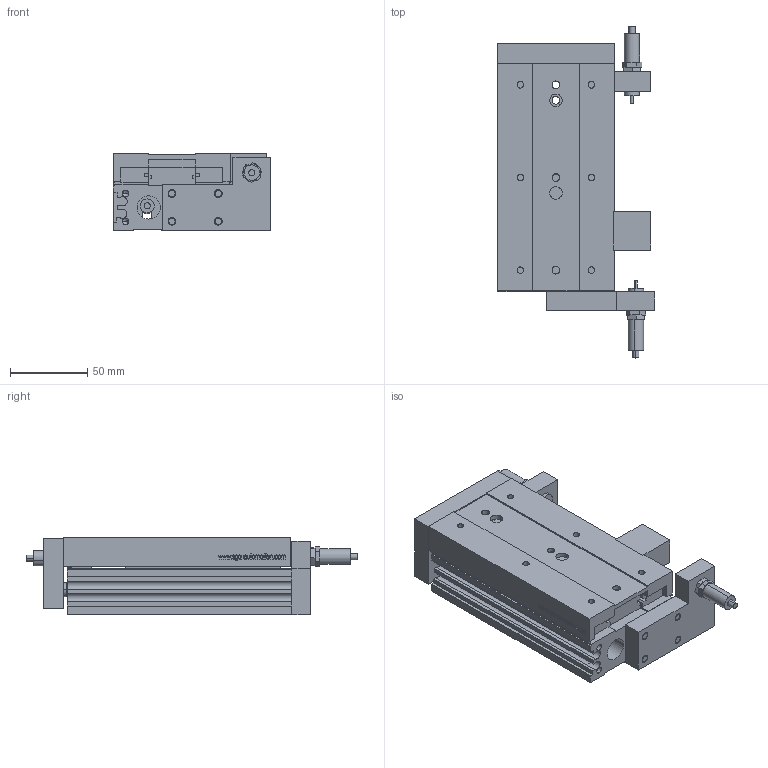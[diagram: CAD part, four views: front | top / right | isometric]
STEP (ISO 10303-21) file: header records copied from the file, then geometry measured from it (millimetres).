
FILE_DESCRIPTION (( 'STEP AP203' ), '1' );
FILE_NAME ('GDX 20-75.STEP', '2013-02-27T13:20:57', ( 'Conseil Régional Haute-Normandie' ), ( 'Conseil Régional Haute-Normandie' ), 'SwSTEP 2.0', 'SolidWorks 2010', '' );
FILE_SCHEMA (( 'CONFIG_CONTROL_DESIGN' ));
Length unit declared in the file: millimetre
Products named in the file (14): Pièce 12 GDX 20-75_Default; Pièce7 GDX 20-10_Default; Pièce4 GDX 20-10_Default; Pièce9 GDX 20-10_Default; GDX 20-75; Pièce11 GDX 20-75_Default; Pièce13 GDX 20-75_Default; Pièce 10 GDX 20-75_Default; Pièce1 GDX 20-10_Default; Pièce2 GDX 20-10_Default; Pièce3 GDX 20-10_Default; Pièce14 GDX 20-10_Default; Pièce15 GDX 20-10_Default; Pièce16 GDX 20-10_Default
Assembly tree (29 placements, depth 2):
  GDX 20-75
    Pièce15 GDX 20-10_Default  x8
    Pièce16 GDX 20-10_Default  x4
    Pièce13 GDX 20-75_Default  x2
    Pièce14 GDX 20-10_Default  x4
    Pièce 10 GDX 20-75_Default
    Pièce1 GDX 20-10_Default
    Pièce 12 GDX 20-75_Default
    Pièce11 GDX 20-75_Default
    Pièce4 GDX 20-10_Default  x2
    Pièce2 GDX 20-10_Default
    Pièce9 GDX 20-10_Default  x2
    Pièce3 GDX 20-10_Default
    Pièce7 GDX 20-10_Default
Bounding box: 102 x 214.91 x 50 mm (x, y, z)
Volume: 504264.9 mm3; surface area: 156684.1 mm2
Topology: 29 solids, 29 shells, 784 faces, 1986 edges, 1290 vertices
Faces by surface type: plane 389, cylinder 222, bspline 133, cone 40
Entity records: 31684 total; most frequent: CARTESIAN_POINT 14348, ORIENTED_EDGE 3336, DIRECTION 2804, EDGE_CURVE 1668, VERTEX_POINT 1105, LINE 1086, VECTOR 1086, AXIS2_PLACEMENT_3D 859
